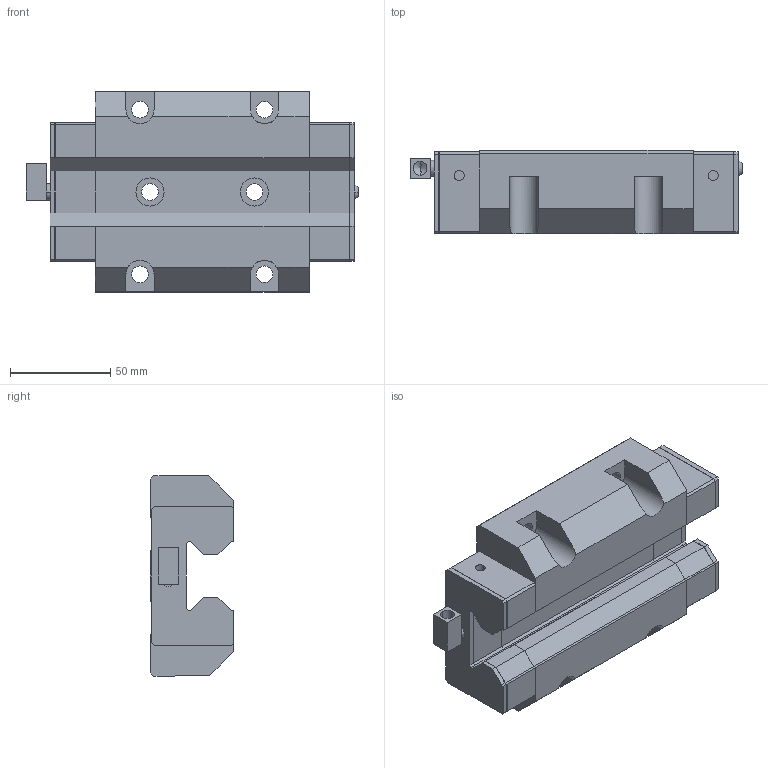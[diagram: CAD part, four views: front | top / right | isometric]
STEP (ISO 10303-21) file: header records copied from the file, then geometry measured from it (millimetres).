
FILE_DESCRIPTION (( 'STEP AP203' ), '1' );
FILE_NAME ('SGW35HC.STEP', '2025-07-11T04:55:05', ( 'Owner' ), ( 'Organization' ), 'SwSTEP 2.0', 'SolidWorks 2020', '' );
FILE_SCHEMA (( 'CONFIG_CONTROL_DESIGN' ));
Length unit declared in the file: millimetre
Products named in the file (1): SGW35HC
Bounding box: 165.3 x 41.5 x 100 mm (x, y, z)
Volume: 429825.7 mm3; surface area: 78005.4 mm2
Topology: 7 solids, 7 shells, 289 faces, 728 edges, 468 vertices
Faces by surface type: plane 229, cylinder 56, cone 2, torus 2
Entity records: 8610 total; most frequent: CARTESIAN_POINT 1508, ORIENTED_EDGE 1452, DIRECTION 1415, EDGE_CURVE 726, VECTOR 601, LINE 601, VERTEX_POINT 468, AXIS2_PLACEMENT_3D 407
